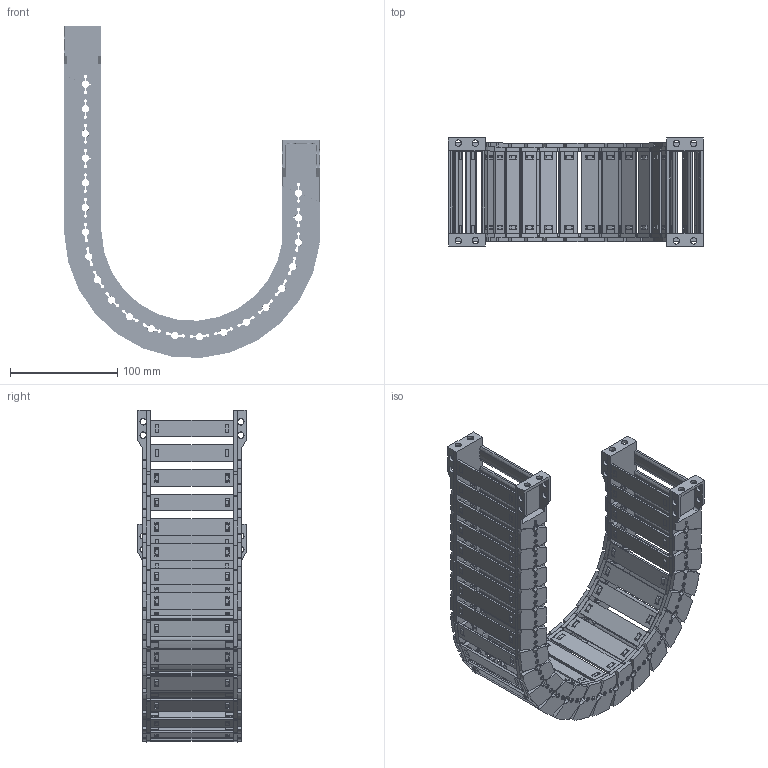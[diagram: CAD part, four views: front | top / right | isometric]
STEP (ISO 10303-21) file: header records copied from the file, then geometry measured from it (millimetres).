
FILE_DESCRIPTION(/* description */ (''),/* implementation_level */ '2;1');
FILE_NAME(/* name */ 'JY28-77-R100.stp',/* time_stamp */ '2026-06-03T16:44:45+08:00',/* author */ (''),/* organization */ (''),/* preprocessor_version */ 'ST-DEVELOPER v19.4',/* originating_system */ 'SIEMENS PLM Software NX2306.5001',/* authorisation */ '');
FILE_SCHEMA (('AP203_CONFIGURATION_CONTROLLED_3D_DESIGN_OF_MECHANICAL_PARTS_AND_ASSEMBLIES_MIM_LF { 1 0 10303 403 2 1 2}'));
Products named in the file (1): 简化图纸_objects
Bounding box: 238.21 x 101 x 309.61 mm (x, y, z)
Volume: 438270.9 mm3; surface area: 318093.5 mm2
Topology: 86 solids, 86 shells, 7166 faces, 20384 edges, 13324 vertices
Faces by surface type: plane 4694, cone 1300, cylinder 1128, bspline 42, torus 2
Full cylindrical faces by diameter (mm): 6 x24
Entity records: 242416 total; most frequent: CARTESIAN_POINT 53852, ORIENTED_EDGE 40676, DIRECTION 38192, EDGE_CURVE 20338, LINE 13462, VECTOR 13462, VERTEX_POINT 13302, AXIS2_PLACEMENT_3D 12365
